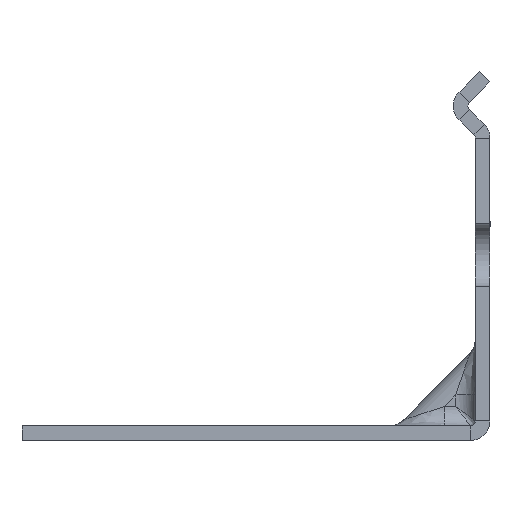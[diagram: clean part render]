
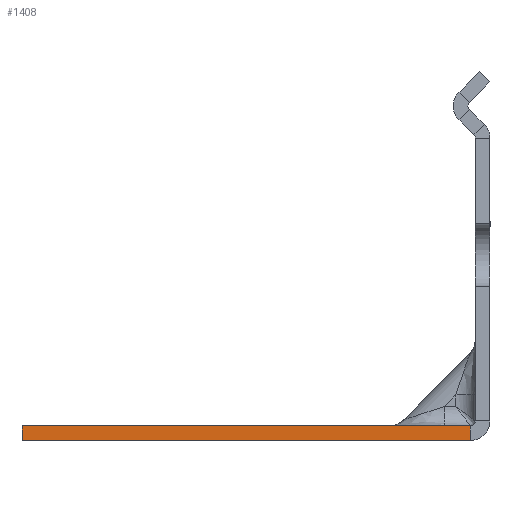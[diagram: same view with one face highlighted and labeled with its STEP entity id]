
A CAD part, left-side view. The second image highlights one B-rep face of the part: STEP entity #1408.
In plain terms, the highlighted planar face has unit normal (-1, 0, 0).
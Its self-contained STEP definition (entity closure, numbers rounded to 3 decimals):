
#371 = CARTESIAN_POINT ( 'NONE',  ( 0., 0., 1.5 ) ) ;
#428 = LINE ( 'NONE', #3256, #3562 ) ;
#514 = CARTESIAN_POINT ( 'NONE',  ( 0., -46., 1.5 ) ) ;
#802 = DIRECTION ( 'NONE',  ( 0., -1., 0. ) ) ;
#828 = AXIS2_PLACEMENT_3D ( 'NONE', #2431, #3199, #802 ) ;
#874 = EDGE_LOOP ( 'NONE', ( #1985, #3516, #1820, #2308 ) ) ;
#1040 = CARTESIAN_POINT ( 'NONE',  ( 0., -46., 1.5 ) ) ;
#1058 = CARTESIAN_POINT ( 'NONE',  ( 0., -46., 0. ) ) ;
#1283 = VERTEX_POINT ( 'NONE', #1058 ) ;
#1380 = EDGE_CURVE ( 'NONE', #4068, #3308, #2731, .T. ) ;
#1381 = LINE ( 'NONE', #1040, #2625 ) ;
#1408 = ADVANCED_FACE ( 'NONE', ( #3124 ), #3971, .T. ) ;
#1820 = ORIENTED_EDGE ( 'NONE', *, *, #2366, .T. ) ;
#1985 = ORIENTED_EDGE ( 'NONE', *, *, #4135, .F. ) ;
#2044 = VECTOR ( 'NONE', #2957, 1000. ) ;
#2167 = VECTOR ( 'NONE', #4792, 1000. ) ;
#2308 = ORIENTED_EDGE ( 'NONE', *, *, #1380, .F. ) ;
#2366 = EDGE_CURVE ( 'NONE', #1283, #3308, #1381, .T. ) ;
#2431 = CARTESIAN_POINT ( 'NONE',  ( 0., 0., 1.5 ) ) ;
#2625 = VECTOR ( 'NONE', #3019, 1000. ) ;
#2731 = LINE ( 'NONE', #371, #2167 ) ;
#2878 = CARTESIAN_POINT ( 'NONE',  ( 0., 0., 1.5 ) ) ;
#2884 = DIRECTION ( 'NONE',  ( 0., -1., 0. ) ) ;
#2957 = DIRECTION ( 'NONE',  ( 0., 0., 1. ) ) ;
#3019 = DIRECTION ( 'NONE',  ( 0., 0., 1. ) ) ;
#3124 = FACE_OUTER_BOUND ( 'NONE', #874, .T. ) ;
#3199 = DIRECTION ( 'NONE',  ( -1., 0., 0. ) ) ;
#3256 = CARTESIAN_POINT ( 'NONE',  ( 0., 0., 0. ) ) ;
#3308 = VERTEX_POINT ( 'NONE', #514 ) ;
#3516 = ORIENTED_EDGE ( 'NONE', *, *, #3731, .T. ) ;
#3522 = VERTEX_POINT ( 'NONE', #3528 ) ;
#3528 = CARTESIAN_POINT ( 'NONE',  ( 0., 0., 0. ) ) ;
#3562 = VECTOR ( 'NONE', #2884, 1000. ) ;
#3731 = EDGE_CURVE ( 'NONE', #3522, #1283, #428, .T. ) ;
#3971 = PLANE ( 'NONE',  #828 ) ;
#4068 = VERTEX_POINT ( 'NONE', #2878 ) ;
#4135 = EDGE_CURVE ( 'NONE', #3522, #4068, #4522, .T. ) ;
#4522 = LINE ( 'NONE', #4942, #2044 ) ;
#4792 = DIRECTION ( 'NONE',  ( 0., -1., 0. ) ) ;
#4942 = CARTESIAN_POINT ( 'NONE',  ( 0., 0., 1.5 ) ) ;
